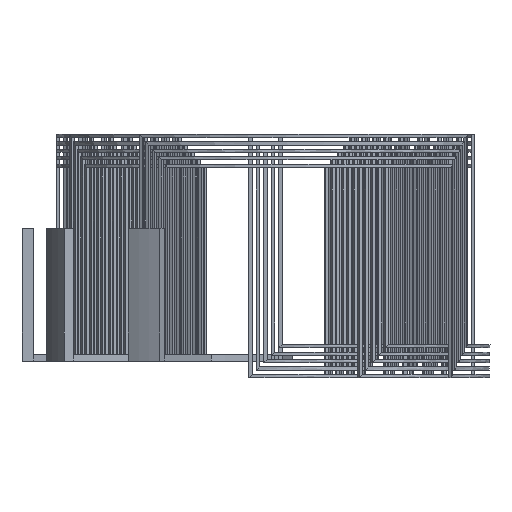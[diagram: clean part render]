
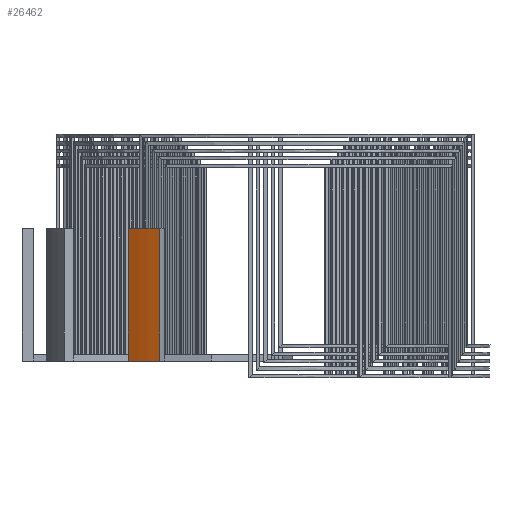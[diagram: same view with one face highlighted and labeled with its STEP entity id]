
A CAD part, left-side view. The second image highlights one B-rep face of the part: STEP entity #26462.
In plain terms, the highlighted cylindrical face has radius 11 mm (diameter 22 mm), a partial arc.
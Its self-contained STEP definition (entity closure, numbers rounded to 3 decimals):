
#134=CYLINDRICAL_SURFACE('',#28600,11.);
#887=CIRCLE('',#28595,11.);
#889=CIRCLE('',#28601,11.);
#3570=FACE_OUTER_BOUND('',#5400,.T.);
#5400=EDGE_LOOP('',(#23371,#23372,#23373,#23374));
#7779=LINE('',#57078,#10163);
#7786=LINE('',#57091,#10170);
#10163=VECTOR('',#35202,10.);
#10170=VECTOR('',#35215,10.);
#12173=VERTEX_POINT('',#57071);
#12174=VERTEX_POINT('',#57073);
#12175=VERTEX_POINT('',#57077);
#12178=VERTEX_POINT('',#57089);
#15903=EDGE_CURVE('',#12174,#12173,#887,.T.);
#15905=EDGE_CURVE('',#12174,#12175,#7779,.T.);
#15913=EDGE_CURVE('',#12173,#12178,#7786,.T.);
#15914=EDGE_CURVE('',#12175,#12178,#889,.T.);
#23371=ORIENTED_EDGE('',*,*,#15903,.T.);
#23372=ORIENTED_EDGE('',*,*,#15913,.T.);
#23373=ORIENTED_EDGE('',*,*,#15914,.F.);
#23374=ORIENTED_EDGE('',*,*,#15905,.F.);
#26462=ADVANCED_FACE('',(#3570),#134,.T.);
#28595=AXIS2_PLACEMENT_3D('',#57074,#35197,#35198);
#28600=AXIS2_PLACEMENT_3D('',#57092,#35216,#35217);
#28601=AXIS2_PLACEMENT_3D('',#57093,#35218,#35219);
#35197=DIRECTION('center_axis',(0.,0.,1.));
#35198=DIRECTION('ref_axis',(-0.827,0.563,0.));
#35202=DIRECTION('',(0.,0.,1.));
#35215=DIRECTION('',(0.,0.,1.));
#35216=DIRECTION('center_axis',(0.,0.,1.));
#35217=DIRECTION('ref_axis',(-0.827,0.563,0.));
#35218=DIRECTION('center_axis',(0.,0.,1.));
#35219=DIRECTION('ref_axis',(-0.827,0.563,0.));
#57071=CARTESIAN_POINT('',(-9.907,4.78,-1.));
#57073=CARTESIAN_POINT('',(-9.093,6.19,-1.));
#57074=CARTESIAN_POINT('Origin',(0.,0.,-1.));
#57077=CARTESIAN_POINT('',(-9.093,6.19,5.));
#57078=CARTESIAN_POINT('',(-9.093,6.19,-1.));
#57089=CARTESIAN_POINT('',(-9.907,4.78,5.));
#57091=CARTESIAN_POINT('',(-9.907,4.78,-1.));
#57092=CARTESIAN_POINT('Origin',(0.,0.,-1.));
#57093=CARTESIAN_POINT('Origin',(0.,0.,5.));
